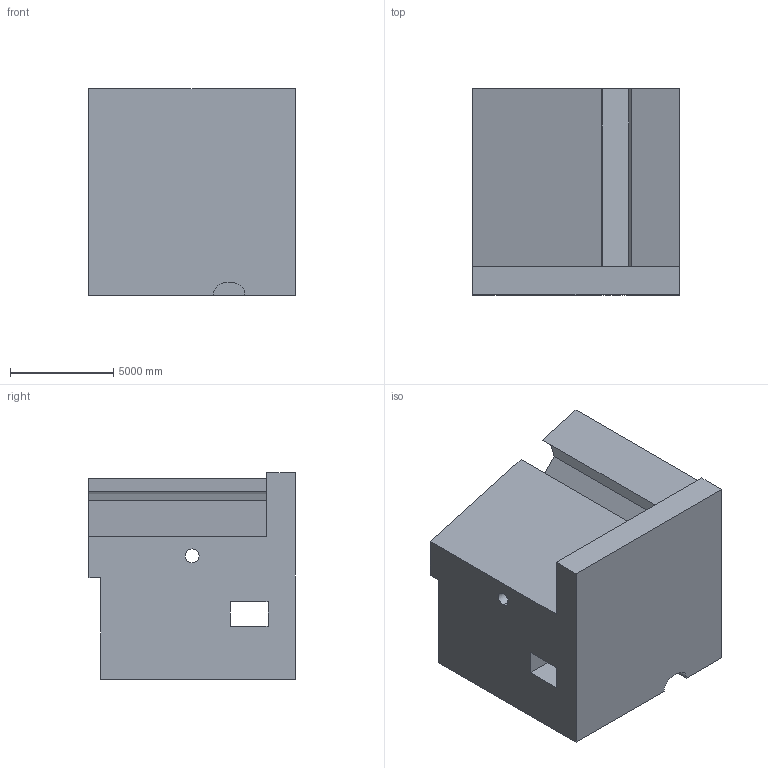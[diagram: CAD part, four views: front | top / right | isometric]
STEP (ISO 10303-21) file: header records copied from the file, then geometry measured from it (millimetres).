
FILE_DESCRIPTION (( 'STEP AP203' ), '1' );
FILE_NAME ('58.STEP', '2022-09-02T13:54:22', ( 'user' ), ( '' ), 'SwSTEP 2.0', 'SolidWorks 2021', '' );
FILE_SCHEMA (( 'CONFIG_CONTROL_DESIGN' ));
Length unit declared in the file: centimetre
Products named in the file (1): 58
Bounding box: 10000 x 10000 x 10000 mm (x, y, z)
Volume: 706148371277.5 mm3; surface area: 680852418.5 mm2
Topology: 1 solids, 1 shells, 28 faces, 78 edges, 52 vertices
Faces by surface type: plane 24, cylinder 4
Entity records: 975 total; most frequent: CARTESIAN_POINT 159, ORIENTED_EDGE 156, DIRECTION 144, EDGE_CURVE 78, VECTOR 70, LINE 70, VERTEX_POINT 52, AXIS2_PLACEMENT_3D 37
